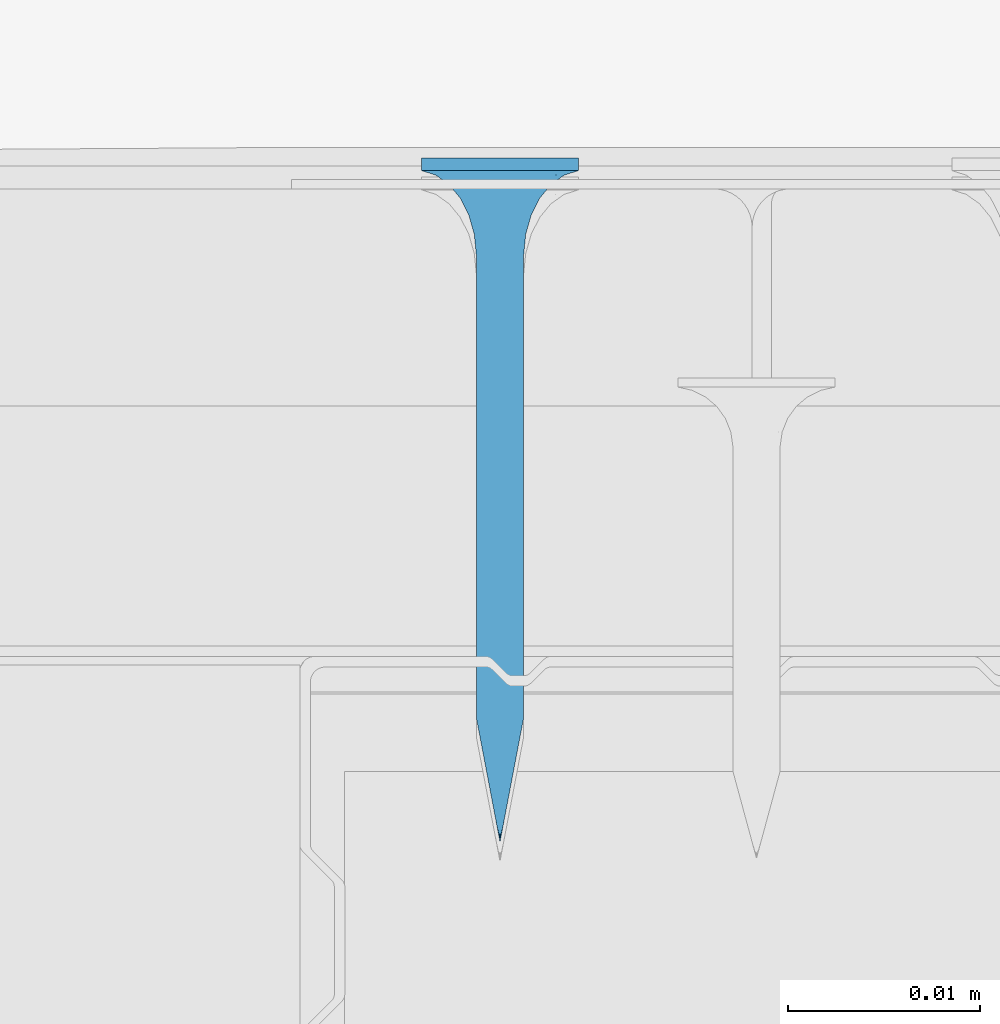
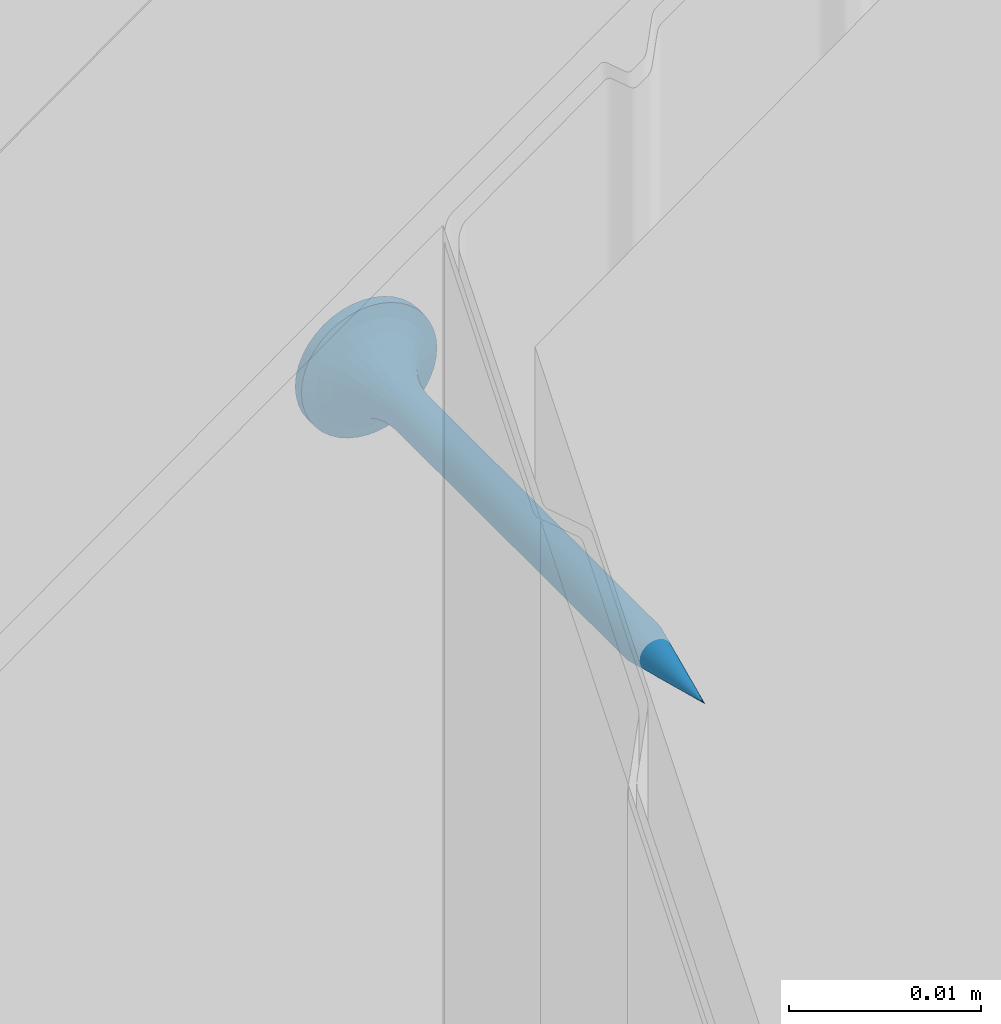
# One storey, part 14 of 36: 1 wall.
"""IFC2X3 building model written with IfcOpenShell, lengths in millimetres."""

from ifc_helpers import new_model, entity, si_unit, converted_unit, direction, frame, origin, origin_with_axes, place, context, project, spatial, faceted_brep, element, save


model = new_model("IFC2X3")

# Units and contexts
model_context = context("Model", 3, precision=1e-05, world=origin(), true_north=direction((0.0, 1.0, 0.0)))
ifc_project = project(units=[si_unit("LENGTHUNIT", "METRE", prefix="MILLI"), si_unit("AREAUNIT", "SQUARE_METRE"), si_unit("VOLUMEUNIT", "CUBIC_METRE"), converted_unit("PLANEANGLEUNIT", "DEGREE", entity("IfcPlaneAngleMeasure", 0.01745), si_unit("PLANEANGLEUNIT", "RADIAN"), dimensions=[0, 0, 0, 0, 0, 0, 0]), si_unit("SOLIDANGLEUNIT", "STERADIAN"), si_unit("MASSUNIT", "GRAM"), si_unit("TIMEUNIT", "SECOND"), si_unit("THERMODYNAMICTEMPERATUREUNIT", "DEGREE_CELSIUS"), si_unit("LUMINOUSINTENSITYUNIT", "LUMEN")], contexts=[model_context])

# Site, building, storey
site_placement = place(None, origin_with_axes())
site = spatial("IfcSite", under=ifc_project, at=site_placement, Name="Default Site", CompositionType="ELEMENT")
building_placement = place(site_placement, origin_with_axes())
building = spatial("IfcBuilding", under=site, at=building_placement, Name="Default Building", CompositionType="ELEMENT")
storey_placement = place(building_placement, origin_with_axes())
storey = spatial("IfcBuildingStorey", under=building, at=storey_placement, Name="Default Building Storey", CompositionType="ELEMENT", Elevation=0.0)

# Wall
wall_placement = place(storey_placement, frame((2495.838694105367, -2785.707128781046, 205.0621105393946), z_axis=(0.0, 0.0, 1.0), x_axis=(-1.0, -1.471045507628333e-15, 0.0)))
element("IfcWall", 1, at=wall_placement, inside=storey, Name="Wkręt RIGIPS TN 35", context=model_context, shape_type="Brep", body=[
    faceted_brep([(-141.5377463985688, -4832.598051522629, 555.8000000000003), (-141.5377463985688, -4833.259713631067, 555.8000000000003), (-141.4875329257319, -4833.259713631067, 555.1619773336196), (-141.4875329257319, -4832.598051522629, 555.1619773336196), (-141.3381289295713, -4833.259713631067, 554.5396649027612), (-141.3381289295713, -4832.598051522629, 554.5396649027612), (-141.0932132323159, -4833.259713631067, 553.9483861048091), (-141.0932132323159, -4832.598051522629, 553.9483861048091), (-140.7588164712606, -4833.259713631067, 553.4027001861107), (-140.7588164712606, -4832.598051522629, 553.4027001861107), (-140.3431726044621, -4833.259713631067, 552.9160437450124), (-140.4541727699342, -4832.598051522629, 553.0314907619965), (-140.1080097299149, -4832.598051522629, 552.6986614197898), (-139.8565161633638, -4833.259713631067, 552.5003998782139), (-139.7251262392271, -4832.598051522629, 552.4088262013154), (-139.3108302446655, -4833.259713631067, 552.1660031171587), (-139.3108302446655, -4832.598051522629, 552.1660031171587), (-138.870865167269, -4832.598051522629, 551.9735584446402), (-138.7195514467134, -4833.259713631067, 551.9210874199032), (-138.4113302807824, -4832.598051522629, 551.8341600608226), (-137.9385961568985, -4832.598051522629, 551.7497404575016), (-138.0972390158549, -4833.259713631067, 551.7716834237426), (-137.4592163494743, -4833.259713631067, 551.7214699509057), (-137.4592163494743, -4832.598051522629, 551.7214699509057), (-136.8211936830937, -4833.259713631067, 551.7716834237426), (-136.8211936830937, -4832.598051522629, 551.7716834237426), (-136.1988812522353, -4833.259713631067, 551.9210874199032), (-136.1988812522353, -4832.598051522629, 551.9210874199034), (-135.6076024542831, -4833.259713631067, 552.1660031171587), (-135.6076024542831, -4832.598051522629, 552.1660031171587), (-135.0619165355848, -4833.259713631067, 552.5003998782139), (-135.0619165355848, -4832.598051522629, 552.5003998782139), (-134.5752600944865, -4833.259713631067, 552.9160437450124), (-134.5752600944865, -4832.598051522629, 552.9160437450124), (-134.159616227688, -4833.259713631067, 553.4027001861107), (-134.159616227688, -4832.598051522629, 553.4027001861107), (-133.8252194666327, -4833.259713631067, 553.9483861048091), (-133.8252194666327, -4832.598051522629, 553.9483861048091), (-133.5803037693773, -4833.259713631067, 554.5396649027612), (-133.5803037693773, -4832.598051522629, 554.5396649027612), (-133.4308997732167, -4833.259713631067, 556.4380226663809), (-133.4308997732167, -4832.598051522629, 556.4380226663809), (-133.3806863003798, -4832.598051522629, 555.8000000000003), (-133.3806863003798, -4833.259713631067, 555.8000000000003), (-133.4308997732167, -4832.598051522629, 555.1619773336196), (-133.4308997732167, -4833.259713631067, 555.1619773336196), (-133.5803037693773, -4833.259713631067, 557.0603350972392), (-133.5803037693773, -4832.598051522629, 557.0603350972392), (-133.8252194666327, -4833.259713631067, 557.6516138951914), (-133.8252194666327, -4832.598051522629, 557.6516138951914), (-134.159616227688, -4833.259713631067, 558.1972998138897), (-134.159616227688, -4832.598051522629, 558.1972998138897), (-134.5752600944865, -4833.259713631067, 558.683956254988), (-134.5752600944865, -4832.598051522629, 558.683956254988), (-135.0619165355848, -4833.259713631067, 559.0996001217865), (-135.0619165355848, -4832.598051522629, 559.0996001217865), (-135.6076024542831, -4833.259713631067, 559.4339968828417), (-135.6076024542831, -4832.598051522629, 559.4339968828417), (-136.1988812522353, -4833.259713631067, 559.6789125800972), (-136.1988812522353, -4832.598051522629, 559.6789125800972), (-136.8211936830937, -4833.259713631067, 559.8283165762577), (-136.8211936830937, -4832.598051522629, 559.8283165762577), (-137.4592163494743, -4833.259713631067, 559.8785300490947), (-137.4592163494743, -4832.598051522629, 559.8785300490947), (-138.0972390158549, -4833.259713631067, 559.8283165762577), (-138.0972390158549, -4832.598051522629, 559.8283165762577), (-138.7195514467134, -4833.259713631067, 559.6789125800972), (-138.7195514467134, -4832.598051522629, 559.6789125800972), (-139.3108302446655, -4833.259713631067, 559.4339968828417), (-139.3108302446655, -4832.598051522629, 559.4339968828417), (-139.8565161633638, -4833.259713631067, 559.0996001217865), (-139.8565161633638, -4832.598051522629, 559.0996001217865), (-140.3431726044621, -4833.259713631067, 558.683956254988), (-140.3431726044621, -4832.598051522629, 558.683956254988), (-140.7588164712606, -4833.259713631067, 558.1972998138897), (-140.7588164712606, -4832.598051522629, 558.1972998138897), (-141.0932132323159, -4833.259713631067, 557.6516138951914), (-141.0932132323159, -4832.598051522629, 557.6516138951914), (-141.3381289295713, -4833.259713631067, 557.0603350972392), (-141.3381289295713, -4832.598051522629, 557.0603350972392), (-141.4875329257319, -4833.259713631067, 556.4380226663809), (-141.4875329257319, -4832.598051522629, 556.4380226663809), (-137.8060615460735, -4829.281368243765, 554.5055560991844), (-137.4592163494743, -4828.206294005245, 554.5693795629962), (-137.6517277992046, -4828.206294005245, 554.5845305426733), (-137.4592163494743, -4829.281368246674, 554.4598930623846), (-137.8394989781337, -4828.206294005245, 554.6296104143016), (-138.1292698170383, -4829.281368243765, 554.639433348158), (-138.0179063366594, -4828.206294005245, 554.7035091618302), (-138.1825568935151, -4828.206294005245, 554.804407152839), (-138.4068150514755, -4829.281368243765, 554.8524012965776), (-138.3293964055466, -4828.206294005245, 554.929819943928), (-138.6197830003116, -4829.281368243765, 555.1299465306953), (-138.4548091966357, -4828.206294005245, 555.0766594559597), (-138.5557071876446, -4828.206294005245, 555.2413100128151), (-138.7536602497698, -4829.281368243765, 555.4531548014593), (-138.629605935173, -4828.206294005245, 555.4197173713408), (-138.6746858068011, -4828.206294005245, 555.60748855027), (-138.7993232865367, -4829.281368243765, 555.7999999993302), (-138.6898367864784, -4828.206294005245, 555.8000000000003), (-138.7536602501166, -4829.281368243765, 556.1468451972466), (-138.6746858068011, -4828.206294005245, 555.9925114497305), (-138.629605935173, -4828.206294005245, 556.1802826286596), (-138.6197830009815, -4829.281368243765, 556.4700534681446), (-138.5557071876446, -4828.206294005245, 556.3586899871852), (-138.4548091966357, -4828.206294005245, 556.5233405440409), (-138.4068150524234, -4829.281368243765, 556.7475987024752), (-138.3293964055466, -4828.206294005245, 556.6701800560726), (-138.1292698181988, -4829.281368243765, 556.9605666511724), (-138.1825568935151, -4828.206294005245, 556.7955928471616), (-138.0179063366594, -4828.206294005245, 556.8964908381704), (-137.8060615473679, -4829.281368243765, 557.0944439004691), (-137.8394989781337, -4828.206294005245, 556.9703895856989), (-137.6517277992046, -4828.206294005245, 557.0154694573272), (-137.4592163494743, -4829.281368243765, 557.1401069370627), (-137.4592163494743, -4828.206294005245, 557.0306204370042), (-137.1123711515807, -4829.281368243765, 557.0944439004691), (-137.2667048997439, -4828.206294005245, 557.0154694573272), (-137.0789337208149, -4828.206294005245, 556.9703895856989), (-136.7891628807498, -4829.281368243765, 556.9605666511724), (-136.9005263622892, -4828.206294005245, 556.8964908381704), (-136.7358758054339, -4828.206294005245, 556.7955928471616), (-136.5116176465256, -4829.281368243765, 556.7475987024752), (-136.5890362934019, -4828.206294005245, 556.6701800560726), (-136.2986496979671, -4829.281368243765, 556.4700534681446), (-136.4636235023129, -4828.206294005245, 556.5233405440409), (-136.3627255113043, -4828.206294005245, 556.3586899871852), (-136.1647724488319, -4829.281368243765, 556.1468451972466), (-136.2888267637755, -4828.206294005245, 556.1802826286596), (-136.2437468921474, -4828.206294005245, 555.9925114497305), (-136.1191094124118, -4829.281368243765, 555.7999999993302), (-136.2285959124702, -4828.206294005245, 555.8000000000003), (-136.1647724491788, -4829.281368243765, 555.4531548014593), (-136.2437468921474, -4828.206294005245, 555.60748855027), (-136.2888267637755, -4828.206294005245, 555.4197173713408), (-136.298649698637, -4829.281368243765, 555.1299465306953), (-136.3627255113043, -4828.206294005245, 555.2413100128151), (-136.4636235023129, -4828.206294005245, 555.0766594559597), (-136.5116176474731, -4829.281368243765, 554.8524012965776), (-136.5890362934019, -4828.206294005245, 554.929819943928), (-136.7891628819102, -4829.281368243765, 554.639433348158), (-136.7358758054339, -4828.206294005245, 554.804407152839), (-136.9005263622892, -4828.206294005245, 554.7035091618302), (-137.1123711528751, -4829.281368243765, 554.5055560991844), (-137.0789337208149, -4828.206294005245, 554.6296104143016), (-137.2667048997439, -4828.206294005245, 554.5845305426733), (-137.4592163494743, -4830.288222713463, 554.1737111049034), (-137.8801308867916, -4830.288222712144, 554.229125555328), (-138.2723607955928, -4830.288222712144, 554.3915925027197), (-138.6091762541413, -4830.288222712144, 554.6500400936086), (-138.8676238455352, -4830.288222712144, 554.9868555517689), (-139.0300907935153, -4830.288222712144, 555.3790854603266), (-139.085505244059, -4830.288222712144, 555.7999999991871), (-139.0300907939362, -4830.288222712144, 556.2209145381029), (-138.8676238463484, -4830.288222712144, 556.6131444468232), (-138.6091762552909, -4830.288222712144, 556.9499599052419), (-138.2723607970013, -4830.288222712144, 557.2084074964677), (-137.8801308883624, -4830.288222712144, 557.3708744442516), (-137.4592163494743, -4830.288222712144, 557.426288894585), (-137.0383018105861, -4830.288222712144, 557.3708744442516), (-136.6460719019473, -4830.288222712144, 557.2084074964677), (-136.3092564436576, -4830.288222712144, 556.9499599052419), (-136.0508088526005, -4830.288222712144, 556.6131444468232), (-135.8883419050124, -4830.288222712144, 556.2209145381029), (-135.8329274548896, -4830.288222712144, 555.7999999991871), (-135.8883419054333, -4830.288222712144, 555.3790854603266), (-136.0508088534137, -4830.288222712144, 554.9868555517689), (-136.3092564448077, -4830.288222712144, 554.6500400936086), (-136.6460719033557, -4830.288222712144, 554.3915925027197), (-137.038301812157, -4830.288222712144, 554.229125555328), (-137.4592163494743, -4831.168773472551, 553.7273431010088), (-137.9956594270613, -4831.168773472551, 553.7979671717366), (-138.4955447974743, -4831.168773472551, 554.005026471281), (-138.9248060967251, -4831.168773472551, 554.3344102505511), (-139.2541898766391, -4831.168773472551, 554.7636715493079), (-139.4612491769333, -4831.168773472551, 555.2635569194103), (-139.5318732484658, -4831.168773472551, 555.7999999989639), (-139.4612491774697, -4831.168773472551, 556.3364430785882), (-139.2541898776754, -4831.168773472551, 556.8363284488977), (-138.9248060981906, -4831.168773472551, 557.2655897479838), (-138.4955447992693, -4831.168773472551, 557.594973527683), (-137.9956594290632, -4831.168773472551, 557.8020328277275), (-137.4592163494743, -4831.168773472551, 557.8726568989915), (-136.9227732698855, -4831.168773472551, 557.8020328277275), (-136.4228878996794, -4831.168773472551, 557.594973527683), (-135.993626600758, -4831.168773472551, 557.2655897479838), (-135.6642428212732, -4831.168773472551, 556.8363284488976), (-135.4571835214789, -4831.168773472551, 556.3364430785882), (-135.3865594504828, -4831.168773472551, 555.7999999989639), (-135.4571835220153, -4831.168773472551, 555.2635569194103), (-135.6642428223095, -4831.168773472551, 554.7636715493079), (-135.9936266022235, -4831.168773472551, 554.3344102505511), (-136.4228879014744, -4831.168773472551, 554.005026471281), (-136.9227732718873, -4831.168773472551, 553.7979671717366), (-137.4592163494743, -4831.872222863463, 553.1465393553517), (-138.1459824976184, -4831.872222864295, 553.2369538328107), (-138.7859466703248, -4831.872222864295, 553.5020356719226), (-139.3354963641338, -4831.872222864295, 553.9237199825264), (-139.757180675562, -4831.872222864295, 554.4732696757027), (-140.0222625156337, -4831.872222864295, 555.1132338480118), (-140.1126769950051, -4831.872222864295, 555.7999999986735), (-140.0222625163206, -4831.872222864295, 556.4867661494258), (-139.7571806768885, -4831.872222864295, 557.1267303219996), (-139.33549636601, -4831.872222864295, 557.6762800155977), (-138.7859466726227, -4831.872222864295, 558.0979643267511), (-138.1459825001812, -4831.872222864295, 558.3630461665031), (-137.4592163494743, -4831.872222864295, 558.4534606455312), (-136.7724501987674, -4831.872222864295, 558.3630461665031), (-136.1324860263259, -4831.872222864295, 558.0979643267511), (-135.5829363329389, -4831.872222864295, 557.6762800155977), (-135.1612520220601, -4831.872222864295, 557.1267303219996), (-134.8961701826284, -4831.872222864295, 556.4867661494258), (-134.8057557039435, -4831.872222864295, 555.7999999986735), (-134.8961701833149, -4831.872222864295, 555.1132338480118), (-135.1612520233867, -4831.872222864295, 554.4732696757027), (-135.5829363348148, -4831.872222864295, 553.9237199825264), (-136.1324860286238, -4831.872222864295, 553.5020356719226), (-136.7724502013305, -4831.872222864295, 553.2369538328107), (-137.4592163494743, -4832.357989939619, 552.4648055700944), (-138.3224281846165, -4832.357989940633, 552.578449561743), (-139.1268135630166, -4832.357989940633, 552.9116368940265), (-139.8175549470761, -4832.357989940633, 553.4416613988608), (-140.3475794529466, -4832.357989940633, 554.1324027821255), (-140.6807667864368, -4832.357989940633, 554.9367881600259), (-140.7944107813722, -4832.357989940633, 555.7999999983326), (-140.6807667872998, -4832.357989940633, 556.6632118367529), (-140.3475794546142, -4832.357989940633, 557.4675972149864), (-139.8175549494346, -4832.357989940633, 558.1583385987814), (-139.1268135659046, -4832.357989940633, 558.6883631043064), (-138.322428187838, -4832.357989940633, 559.0215504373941), (-137.4592163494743, -4832.357989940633, 559.1351944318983), (-136.596004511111, -4832.357989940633, 559.0215504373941), (-135.791619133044, -4832.357989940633, 558.6883631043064), (-135.100877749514, -4832.357989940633, 558.1583385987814), (-134.5708532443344, -4832.357989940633, 557.4675972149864), (-134.2376659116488, -4832.357989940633, 556.6632118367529), (-134.1240219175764, -4832.357989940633, 555.7999999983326), (-134.2376659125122, -4832.357989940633, 554.9367881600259), (-134.570853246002, -4832.357989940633, 554.1324027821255), (-135.1008777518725, -4832.357989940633, 553.4416613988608), (-135.7916191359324, -4832.357989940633, 552.9116368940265), (-136.5960045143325, -4832.357989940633, 552.578449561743), (-138.6898367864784, -4804.09375793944, 555.8000000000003), (-138.6746858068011, -4804.09375793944, 555.60748855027), (-138.629605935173, -4804.09375793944, 555.4197173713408), (-138.5557071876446, -4804.09375793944, 555.2413100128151), (-138.4548091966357, -4804.09375793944, 555.0766594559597), (-138.3293964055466, -4804.09375793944, 554.929819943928), (-138.1825568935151, -4804.09375793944, 554.804407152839), (-138.0179063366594, -4804.09375793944, 554.7035091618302), (-137.8394989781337, -4804.09375793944, 554.6296104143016), (-137.6517277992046, -4804.09375793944, 554.5845305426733), (-137.4592163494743, -4804.09375793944, 554.5693795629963), (-137.2667048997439, -4804.09375793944, 554.5845305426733), (-137.0789337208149, -4804.09375793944, 554.6296104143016), (-136.9005263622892, -4804.09375793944, 554.7035091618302), (-136.7358758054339, -4804.09375793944, 554.804407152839), (-136.5890362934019, -4804.09375793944, 554.929819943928), (-136.4636235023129, -4804.09375793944, 555.0766594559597), (-136.3627255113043, -4804.09375793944, 555.2413100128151), (-136.2888267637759, -4804.09375793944, 555.4197173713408), (-136.2437468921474, -4804.09375793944, 555.9925114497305), (-136.2285959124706, -4804.09375793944, 555.8000000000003), (-136.2437468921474, -4804.09375793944, 555.60748855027), (-136.2888267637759, -4804.09375793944, 556.1802826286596), (-136.3627255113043, -4804.09375793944, 556.3586899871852), (-136.4636235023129, -4804.09375793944, 556.5233405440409), (-136.5890362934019, -4804.09375793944, 556.6701800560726), (-136.7358758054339, -4804.09375793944, 556.7955928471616), (-136.9005263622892, -4804.09375793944, 556.8964908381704), (-137.0789337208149, -4804.09375793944, 556.9703895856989), (-137.2667048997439, -4804.09375793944, 557.0154694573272), (-137.4592163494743, -4804.09375793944, 557.0306204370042), (-137.6517277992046, -4804.09375793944, 557.0154694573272), (-137.8394989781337, -4804.09375793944, 556.9703895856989), (-138.0179063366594, -4804.09375793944, 556.8964908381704), (-138.1825568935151, -4804.09375793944, 556.7955928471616), (-138.3293964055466, -4804.09375793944, 556.6701800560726), (-138.4548091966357, -4804.09375793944, 556.5233405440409), (-138.5557071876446, -4804.09375793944, 556.3586899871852), (-138.629605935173, -4804.09375793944, 556.1802826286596), (-138.6746858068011, -4804.09375793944, 555.9925114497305), (-137.4592163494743, -4797.627063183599, 555.8000000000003), (-139.9592163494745, -4833.259713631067, 556.3000000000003), (-137.9592163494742, -4833.259713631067, 556.3000000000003), (-139.9592163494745, -4833.259713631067, 555.3000000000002), (-137.9592163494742, -4833.259713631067, 555.3000000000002), (-137.9592163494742, -4833.259713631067, 553.3000000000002), (-136.9592163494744, -4833.259713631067, 553.3000000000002), (-136.9592163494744, -4833.259713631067, 555.3000000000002), (-134.9592163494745, -4833.259713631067, 555.3000000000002), (-134.9592163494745, -4833.259713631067, 556.3000000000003), (-136.9592163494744, -4833.259713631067, 556.3000000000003), (-136.9592163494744, -4833.259713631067, 558.3000000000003), (-137.9592163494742, -4833.259713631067, 558.3000000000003), (-136.9592163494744, -4831.988379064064, 556.3000000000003), (-134.9592163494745, -4831.988379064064, 556.3000000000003), (-134.9592163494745, -4831.988379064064, 555.3000000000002), (-136.9592163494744, -4831.988379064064, 555.3000000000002), (-136.9592163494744, -4831.988379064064, 553.3000000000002), (-137.9592163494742, -4831.988379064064, 553.3000000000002), (-137.9592163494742, -4831.988379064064, 555.3000000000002), (-139.9592163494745, -4831.988379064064, 555.3000000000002), (-139.9592163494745, -4831.988379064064, 556.3000000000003), (-137.9592163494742, -4831.988379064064, 556.3000000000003), (-137.9592163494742, -4831.988379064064, 558.3000000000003), (-136.9592163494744, -4831.988379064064, 558.3000000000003)], [[[0, 1, 2, 3]], [[4, 5, 3, 2]], [[6, 7, 5, 4]], [[7, 6, 8, 9]], [[8, 10, 9]], [[10, 11, 9]], [[12, 11, 13]], [[11, 10, 13]], [[13, 14, 12]], [[13, 15, 14]], [[15, 16, 14]], [[17, 16, 18]], [[16, 15, 18]], [[18, 19, 17]], [[20, 19, 21]], [[19, 18, 21]], [[21, 22, 20]], [[22, 23, 20]], [[23, 22, 24, 25]], [[26, 27, 25, 24]], [[28, 29, 27, 26]], [[29, 28, 30, 31]], [[32, 33, 31, 30]], [[33, 32, 34, 35]], [[36, 37, 35, 34]], [[38, 39, 37, 36]], [[40, 41, 42, 43]], [[43, 42, 44, 45]], [[39, 38, 45, 44]], [[46, 47, 41, 40]], [[48, 49, 47, 46]], [[49, 48, 50, 51]], [[52, 53, 51, 50]], [[53, 52, 54, 55]], [[56, 57, 55, 54]], [[58, 59, 57, 56]], [[59, 58, 60, 61]], [[62, 63, 61, 60]], [[63, 62, 64, 65]], [[66, 67, 65, 64]], [[68, 69, 67, 66]], [[69, 68, 70, 71]], [[72, 73, 71, 70]], [[73, 72, 74, 75]], [[76, 77, 75, 74]], [[78, 79, 77, 76]], [[79, 78, 80, 81]], [[1, 0, 81, 80]], [[82, 83, 84]], [[82, 85, 83]], [[84, 86, 82]], [[82, 86, 87]], [[88, 87, 86]], [[87, 88, 89]], [[89, 90, 87]], [[89, 91, 90]], [[92, 91, 93]], [[92, 90, 91]], [[93, 94, 92]], [[92, 94, 95]], [[96, 95, 94]], [[95, 96, 97]], [[97, 98, 95]], [[97, 99, 98]], [[100, 99, 101]], [[100, 98, 99]], [[101, 102, 100]], [[100, 102, 103]], [[104, 103, 102]], [[103, 104, 105]], [[105, 106, 103]], [[105, 107, 106]], [[108, 107, 109]], [[108, 106, 107]], [[109, 110, 108]], [[108, 110, 111]], [[112, 111, 110]], [[111, 112, 113]], [[113, 114, 111]], [[113, 115, 114]], [[116, 115, 117]], [[116, 114, 115]], [[117, 118, 116]], [[116, 118, 119]], [[120, 119, 118]], [[119, 120, 121]], [[121, 122, 119]], [[121, 123, 122]], [[124, 123, 125]], [[124, 122, 123]], [[125, 126, 124]], [[124, 126, 127]], [[128, 127, 126]], [[127, 128, 129]], [[129, 130, 127]], [[129, 131, 130]], [[132, 131, 133]], [[132, 130, 131]], [[133, 134, 132]], [[132, 134, 135]], [[136, 135, 134]], [[135, 136, 137]], [[137, 138, 135]], [[137, 139, 138]], [[140, 139, 141]], [[140, 138, 139]], [[141, 142, 140]], [[140, 142, 143]], [[144, 143, 142]], [[143, 144, 145]], [[145, 85, 143]], [[145, 83, 85]], [[146, 85, 147]], [[82, 147, 85]], [[87, 148, 147, 82]], [[90, 149, 148, 87]], [[92, 150, 149, 90]], [[95, 151, 150, 92]], [[98, 152, 151, 95]], [[100, 153, 152, 98]], [[103, 154, 153, 100]], [[106, 155, 154, 103]], [[108, 156, 155, 106]], [[111, 157, 156, 108]], [[114, 158, 157, 111]], [[116, 159, 158, 114]], [[119, 160, 159, 116]], [[122, 161, 160, 119]], [[124, 162, 161, 122]], [[127, 163, 162, 124]], [[130, 164, 163, 127]], [[132, 165, 164, 130]], [[135, 166, 165, 132]], [[138, 167, 166, 135]], [[140, 168, 167, 138]], [[143, 169, 168, 140]], [[143, 85, 169]], [[146, 169, 85]], [[170, 146, 171]], [[147, 171, 146]], [[148, 172, 171, 147]], [[149, 173, 172, 148]], [[150, 174, 173, 149]], [[151, 175, 174, 150]], [[152, 176, 175, 151]], [[153, 177, 176, 152]], [[154, 178, 177, 153]], [[155, 179, 178, 154]], [[156, 180, 179, 155]], [[157, 181, 180, 156]], [[158, 182, 181, 157]], [[159, 183, 182, 158]], [[160, 184, 183, 159]], [[161, 185, 184, 160]], [[162, 186, 185, 161]], [[163, 187, 186, 162]], [[164, 188, 187, 163]], [[165, 189, 188, 164]], [[166, 190, 189, 165]], [[167, 191, 190, 166]], [[168, 192, 191, 167]], [[169, 193, 192, 168]], [[169, 146, 193]], [[170, 193, 146]], [[194, 170, 195]], [[171, 195, 170]], [[172, 196, 195, 171]], [[173, 197, 196, 172]], [[174, 198, 197, 173]], [[175, 199, 198, 174]], [[176, 200, 199, 175]], [[177, 201, 200, 176]], [[178, 202, 201, 177]], [[179, 203, 202, 178]], [[180, 204, 203, 179]], [[181, 205, 204, 180]], [[182, 206, 205, 181]], [[183, 207, 206, 182]], [[184, 208, 207, 183]], [[185, 209, 208, 184]], [[186, 210, 209, 185]], [[187, 211, 210, 186]], [[188, 212, 211, 187]], [[189, 213, 212, 188]], [[190, 214, 213, 189]], [[191, 215, 214, 190]], [[192, 216, 215, 191]], [[193, 217, 216, 192]], [[193, 170, 217]], [[194, 217, 170]], [[218, 19, 20]], [[218, 219, 19]], [[20, 23, 218]], [[218, 194, 219]], [[195, 219, 194]], [[219, 16, 17]], [[219, 220, 16]], [[17, 19, 219]], [[196, 220, 219, 195]], [[221, 11, 12]], [[220, 12, 14]], [[220, 221, 12]], [[14, 16, 220]], [[197, 221, 220, 196]], [[222, 7, 9]], [[9, 221, 222]], [[9, 11, 221]], [[198, 222, 221, 197]], [[5, 7, 223]], [[222, 223, 7]], [[199, 223, 222, 198]], [[223, 0, 3]], [[223, 224, 0]], [[3, 5, 223]], [[200, 224, 223, 199]], [[225, 79, 81]], [[81, 224, 225]], [[81, 0, 224]], [[201, 225, 224, 200]], [[225, 226, 77, 79]], [[202, 226, 225, 201]], [[226, 73, 75]], [[226, 227, 73]], [[75, 77, 226]], [[203, 227, 226, 202]], [[228, 69, 71]], [[71, 227, 228]], [[71, 73, 227]], [[204, 228, 227, 203]], [[228, 229, 67, 69]], [[205, 229, 228, 204]], [[229, 63, 65]], [[229, 230, 63]], [[65, 67, 229]], [[206, 230, 229, 205]], [[231, 59, 61]], [[61, 230, 231]], [[61, 63, 230]], [[207, 231, 230, 206]], [[231, 232, 57, 59]], [[208, 232, 231, 207]], [[232, 53, 55]], [[232, 233, 53]], [[55, 57, 232]], [[209, 233, 232, 208]], [[234, 49, 51]], [[51, 233, 234]], [[51, 53, 233]], [[210, 234, 233, 209]], [[234, 235, 47, 49]], [[211, 235, 234, 210]], [[235, 42, 41]], [[235, 236, 42]], [[41, 47, 235]], [[212, 236, 235, 211]], [[237, 39, 44]], [[44, 236, 237]], [[44, 42, 236]], [[213, 237, 236, 212]], [[37, 39, 238]], [[237, 238, 39]], [[214, 238, 237, 213]], [[238, 33, 35]], [[238, 239, 33]], [[35, 37, 238]], [[215, 239, 238, 214]], [[240, 29, 31]], [[31, 239, 240]], [[31, 33, 239]], [[216, 240, 239, 215]], [[27, 29, 241]], [[240, 241, 29]], [[217, 241, 240, 216]], [[217, 194, 241]], [[218, 241, 194]], [[241, 23, 25]], [[241, 218, 23]], [[25, 27, 241]], [[242, 99, 97, 243]], [[96, 244, 243, 97]], [[94, 245, 244, 96]], [[245, 94, 93, 246]], [[91, 247, 246, 93]], [[247, 91, 89, 248]], [[88, 249, 248, 89]], [[86, 250, 249, 88]], [[250, 86, 84, 251]], [[83, 252, 251, 84]], [[252, 83, 145, 253]], [[144, 254, 253, 145]], [[142, 255, 254, 144]], [[255, 142, 141, 256]], [[139, 257, 256, 141]], [[257, 139, 137, 258]], [[136, 259, 258, 137]], [[134, 260, 259, 136]], [[129, 261, 262, 131]], [[131, 262, 263, 133]], [[260, 134, 133, 263]], [[128, 264, 261, 129]], [[126, 265, 264, 128]], [[265, 126, 125, 266]], [[123, 267, 266, 125]], [[267, 123, 121, 268]], [[120, 269, 268, 121]], [[118, 270, 269, 120]], [[270, 118, 117, 271]], [[115, 272, 271, 117]], [[272, 115, 113, 273]], [[112, 274, 273, 113]], [[110, 275, 274, 112]], [[275, 110, 109, 276]], [[107, 277, 276, 109]], [[277, 107, 105, 278]], [[104, 279, 278, 105]], [[102, 280, 279, 104]], [[280, 102, 101, 281]], [[99, 242, 281, 101]], [[243, 244, 282]], [[282, 242, 243]], [[244, 245, 282]], [[246, 247, 282]], [[282, 245, 246]], [[248, 249, 282]], [[282, 247, 248]], [[249, 250, 282]], [[251, 252, 282]], [[282, 250, 251]], [[253, 254, 282]], [[282, 252, 253]], [[254, 255, 282]], [[256, 257, 282]], [[282, 255, 256]], [[258, 259, 282]], [[282, 257, 258]], [[259, 260, 282]], [[263, 262, 282]], [[282, 260, 263]], [[261, 264, 282]], [[282, 262, 261]], [[264, 265, 282]], [[266, 267, 282]], [[282, 265, 266]], [[268, 269, 282]], [[282, 267, 268]], [[269, 270, 282]], [[271, 272, 282]], [[282, 270, 271]], [[273, 274, 282]], [[282, 272, 273]], [[274, 275, 282]], [[276, 277, 282]], [[282, 275, 276]], [[278, 279, 282]], [[282, 277, 278]], [[279, 280, 282]], [[281, 242, 282]], [[282, 280, 281]], [[283, 76, 74, 284]], [[283, 285, 286, 287, 288, 289, 290, 291, 292, 293, 294, 284, 74, 72, 70, 68, 66, 64, 62, 60, 58, 56, 54, 52, 50, 48, 46, 40, 43, 45, 38, 36, 34, 32, 30, 28, 26, 24, 22, 21, 18, 15, 13, 10, 8, 6, 4, 2, 1, 80, 78, 76]], [[295, 296, 297, 298, 299, 300, 301, 302, 303, 304, 305, 306]], [[297, 290, 289, 298]], [[296, 291, 290, 297]], [[295, 292, 291, 296]], [[306, 293, 292, 295]], [[305, 294, 293, 306]], [[304, 284, 294, 305]], [[303, 283, 284, 304]], [[302, 285, 283, 303]], [[301, 286, 285, 302]], [[300, 287, 286, 301]], [[299, 288, 287, 300]], [[298, 289, 288, 299]]]),
])

save(model, "model.ifc")
